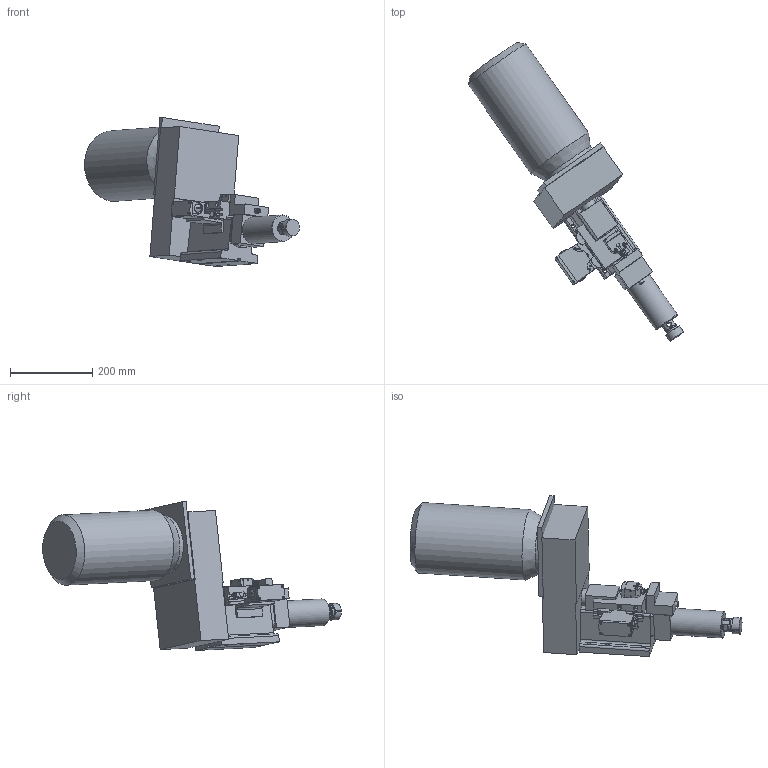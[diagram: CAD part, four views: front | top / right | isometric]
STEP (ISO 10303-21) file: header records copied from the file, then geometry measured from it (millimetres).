
FILE_DESCRIPTION((''),'2;1');
FILE_NAME('C:\VaultWork\Zeichnungen\Maßblätter\Gewindemaschinen\G6-50\G01409-2-0 Maßblatt G6-50 mit Z-Laterne und Spannzangenaufnahme.stp','2009-06-25T14:14:37',('Test'),(''),'Autodesk Inventor 2008','Autodesk Inventor 2008','');
FILE_SCHEMA(('AUTOMOTIVE_DESIGN { 1 0 10303 214 1 1 1 1 }'));
Length unit declared in the file: millimetre
Products named in the file (1): G01409-2-0  Maßblatt G6-50  mit Z-Laterne und Spannzangenaufnahme
Bounding box: 523.96 x 727.82 x 363.07 mm (x, y, z)
Volume: 13695933.3 mm3; surface area: 627419.1 mm2
Topology: 3 solids, 3 shells, 520 faces, 1356 edges, 882 vertices
Faces by surface type: plane 356, cylinder 91, cone 35, torus 18, bspline 16, sphere 4
Full cylindrical faces by diameter (mm): 3.8 x2, 4 x2, 4.3 x2, 4.917 x2, 5.9 x2, 5.97 x1, 6 x3, 6.6 x2, 7.323 x1, 8 x6, 9.98 x2, 10 x2, 11.4 x1, 13 x1, 16 x1, 20 x2, 30.5 x1, 32 x2, 35 x1, 40 x1, 65 x1, 140 x1, 172 x1
Entity records: 16544 total; most frequent: CARTESIAN_POINT 3702, ORIENTED_EDGE 2484, DIRECTION 2482, EDGE_CURVE 1242, VERTEX_POINT 846, VECTOR 834, LINE 834, AXIS2_PLACEMENT_3D 824
